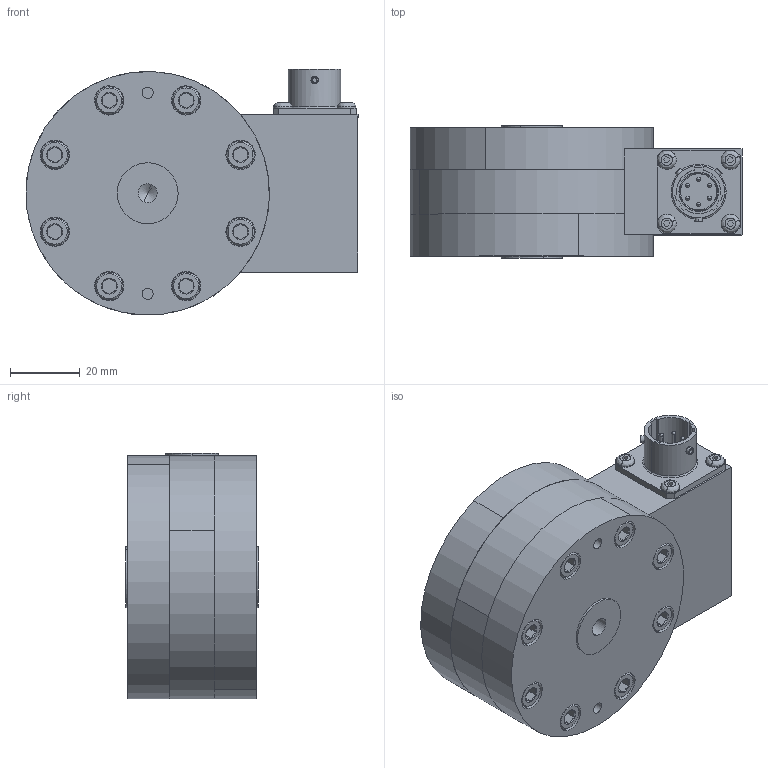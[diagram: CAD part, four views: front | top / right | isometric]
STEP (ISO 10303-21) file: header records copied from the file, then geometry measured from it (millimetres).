
FILE_DESCRIPTION (( 'STEP AP203' ), '1' );
FILE_NAME ('80183C.STEP', '2015-02-04T17:37:03', ( '' ), ( '' ), 'SwSTEP 2.0', 'SolidWorks 2013', '' );
FILE_SCHEMA (( 'CONFIG_CONTROL_DESIGN' ));
Length unit declared in the file: inch
Products named in the file (1): 80183C
Bounding box: 95.24 x 38.1 x 70.54 mm (x, y, z)
Volume: 175809.7 mm3; surface area: 49675.1 mm2
Topology: 13 solids, 13 shells, 538 faces, 1202 edges, 745 vertices
Faces by surface type: plane 205, cylinder 187, cone 122, bspline 20, torus 4
Entity records: 16003 total; most frequent: CARTESIAN_POINT 3850, DIRECTION 2652, ORIENTED_EDGE 2376, EDGE_CURVE 1188, AXIS2_PLACEMENT_3D 1047, VERTEX_POINT 745, EDGE_LOOP 629, VECTOR 558
